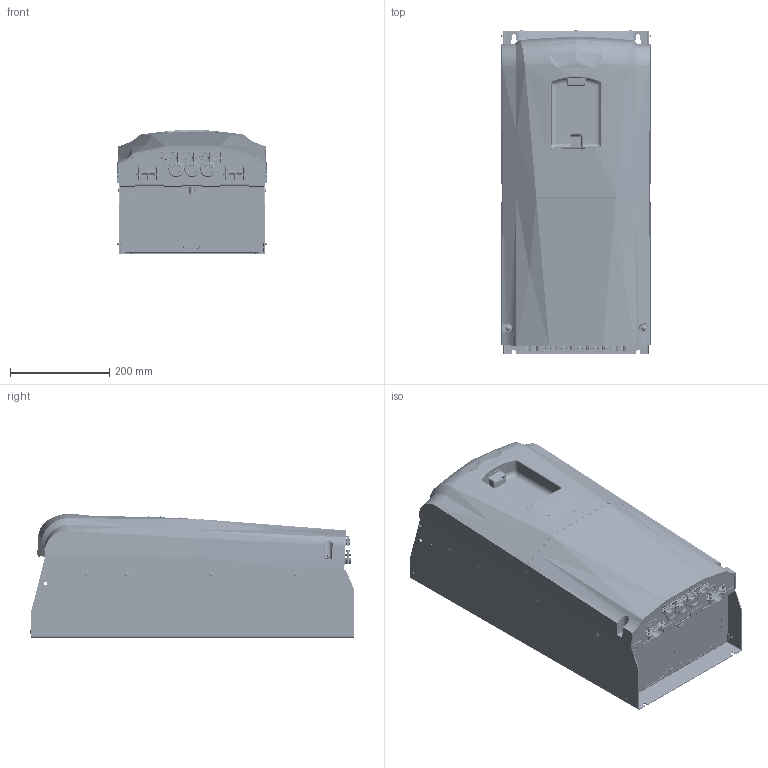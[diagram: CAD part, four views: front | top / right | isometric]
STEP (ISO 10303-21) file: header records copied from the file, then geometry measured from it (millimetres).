
FILE_DESCRIPTION (( 'STEP AP214' ), '1' );
FILE_NAME ('Frame_S3-no HMI.STEP', '2024-05-24T19:30:24', ( '' ), ( '' ), 'SwSTEP 2.0', 'SolidWorks 2023', '' );
FILE_SCHEMA (( 'AUTOMOTIVE_DESIGN' ));
Length unit declared in the file: millimetre
Products named in the file (134): ARJM11D7-AB(10P)^ARJM11D7-104-AB-EW2pcb045pcb045; 97349A300_ROUNDED HEAD THREAD-FORMING SCREWS.step; 2023_01_30_12_14_56_0841; 1733172; SKC-F1.5-PennEngineering-3D-10-12-2022.stp; J2PCB060-Namv3afe-Filters-02; AT_MVSTBR_2_5_5_08; SOCKET_MPD_BK-5058pcb045pcb045; 2023_01_30_11_07_58_0230; SO-M4-8ZI-PennEngineering-3D-01-11-2023; 11H_SHIELD_WLED_WOEMI_WG_8_ASM_ASM^11H_ASSY_SHIELD_ASM_1_ASM_ASM_002__ASM_ASM_ARJM11D7-AB(10P)_ARJM11D7-104-AB-EW2pcb045pcb045; SO-M4-10ZI-PennEngineering-3D-01-11-2023; prop65; 2023_01_30_11_07_58_0386; 32272_02; fan cover_defeature; top shroud_no holes; 2023_01_30_11_07_58_0105; 11H_ASSY_SHIELD_ASM_1_ASM_ASM^002_ASM_ASM_ARJM11D7-AB(10P)__ARJM11D7-104-AB-EW2pcb045pcb045; CSPPNZP-STU-M4-7-2_CSPPNZP-STU-M4-7-2; 94510A245_Brass Screw-to-Expand Inserts_94510A245; 1692K911_Confined-Space Conical Compression Spring_1692K911; 2023_01_30_12_14_56_0826; J20pcb045-nam_maincontrollerwithcopropcb045pcb045; 2023_01_30_12_14_56_0748; J15pcb045-nam_maincontrollerwithcopropcb045pcb045; CSPPNZP-STU-M4-7_CSPPNZP-STU-M4-7; 2023_01_30_11_07_58_0198; 7291N43_Wet-Location Snap-in Sealing Grommet_7291N43; J2pcb045-nam_maincontrollerwithcopropcb045pcb045; front flange; 2023_01_30_11_07_58_0370; 2023_01_30_11_07_58_0120; J19pcb045-nam_maincontrollerwithcopropcb045pcb045; Frame_S3-no HMI; S2pcb045-nam_maincontrollerwithcopropcb045pcb045; 2023_01_30_11_07_58_0292; main plastic cover_main only; mdstbv_2.5-8-g-5.08pcb045pcb045; 2023_01_30_11_07_58_0323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
Assembly tree (228 placements, depth 10):
  Frame_S3-no HMI
    pcb assem_connectors only
      PCB045-REV02_001-00045_lightpcb045pcb045_connectors only
        J1pcb045-nam_maincontrollerwithcopropcb045pcb045
          CONN_BELFUSE_SS-60300-004pcb045pcb045
            SS-60300-004_PART2pcb045pcb045
        J15pcb045-nam_maincontrollerwithcopropcb045pcb045
          CONN_BELFUSE_SS-60300-004pcb045pcb045
            SS-60300-004_PART2pcb045pcb045
        S2pcb045-nam_maincontrollerwithcopropcb045pcb045
          SW_CK_KMR621NGpcb045pcb045
        J21pcb045-nam_maincontrollerwithcopropcb045pcb045
          SOCKET_MPD_BK-5058pcb045pcb045
        J20pcb045-nam_maincontrollerwithcopropcb045pcb045
          CONN_ABRACON_ARJM11D7-502-AB-EW2pcb045pcb045
            ARJM11D7-AB(10P)^ARJM11D7-104-AB-EW2pcb045pcb045
              002_ASM_ASM^ARJM11D7-AB(10P)_ARJM11D7-104-AB-EW2pcb045pcb045
                11H_ASSY_SHIELD_ASM_1_ASM_ASM^002_ASM_ASM_ARJM11D7-AB(10P)__ARJM11D7-104-AB-EW2pcb045pcb045
                  11H_SHIELD_WLED_WOEMI_WG_8_ASM_ASM^11H_ASSY_SHIELD_ASM_1_ASM_ASM_002__ASM_ASM_ARJM11D7-AB(10P)_ARJM11D7-104-AB-EW2pcb045pcb045
        J2pcb045-nam_maincontrollerwithcopropcb045pcb045
          CONN_ABRACON_ARJM11D7-502-AB-EW2pcb045pcb045
            ARJM11D7-AB(10P)^ARJM11D7-104-AB-EW2pcb045pcb045
              002_ASM_ASM^ARJM11D7-AB(10P)_ARJM11D7-104-AB-EW2pcb045pcb045
                11H_ASSY_SHIELD_ASM_1_ASM_ASM^002_ASM_ASM_ARJM11D7-AB(10P)__ARJM11D7-104-AB-EW2pcb045pcb045
                  11H_SHIELD_WLED_WOEMI_WG_8_ASM_ASM^11H_ASSY_SHIELD_ASM_1_ASM_ASM_002__ASM_ASM_ARJM11D7-AB(10P)_ARJM11D7-104-AB-EW2pcb045pcb045
        J19pcb045-nam_maincontrollerwithcopropcb045pcb045
          CONN_PHOENIX_1845549pcb045pcb045
            mdstbv_2.5-8-g-5.08pcb045pcb045
        J6pcb045-nam_maincontrollerwithcopropcb045pcb045
          CONN_PHOENIX_1845549pcb045pcb045
            mdstbv_2.5-8-g-5.08pcb045pcb045
        J4pcb045-nam_maincontrollerwithcopropcb045pcb045
          CONN_AMPHENOL_UE27AE54100pcb045pcb045
      pxc_1792249_04_MVSTBR-2-5-2-ST-5-08_3D  x4
        KK_MVSTB_2_5
        CO_MSTBT_2_5_ST.1_1
        AC_MKDSN_2_5_Laengsschlitz.1_1
        AT_MVSTBR_2_5_5_08_1
      pxc_1792252_04_MVSTBR-2-5-3-ST-5-08_3D  x3
        CO_MSTBT_2_5_ST.1
        AC_MKDSN_2_5_Laengsschlitz.1
        KK_MVSTB_2_5.2
        AT_MVSTBR_2_5_5_08
      pxc_1792294_03_01_MVSTBR-2-5-7-ST-5-08_3D
        2023_01_30_11_07_58_0386
        2023_01_30_11_07_58_0370
        2023_01_30_11_07_58_0355
        2023_01_30_11_07_58_0339
        2023_01_30_11_07_58_0323
        2023_01_30_11_07_58_0308
        2023_01_30_11_07_58_0292
        2023_01_30_11_07_58_0276
        2023_01_30_11_07_58_0261
        2023_01_30_11_07_58_0245
        2023_01_30_11_07_58_0230
        2023_01_30_11_07_58_0214
        2023_01_30_11_07_58_0198
        2023_01_30_11_07_58_0183
        2023_01_30_11_07_58_0167
        2023_01_30_11_07_58_0151
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Bounding box: 301.73 x 651 x 249.52 mm (x, y, z)
Volume: 2928853.4 mm3; surface area: 2811776.3 mm2
Topology: 301 solids, 301 shells, 20629 faces, 54529 edges, 35337 vertices
Faces by surface type: plane 12743, cylinder 4534, bspline 2003, cone 985, torus 250, sphere 114
Entity records: 559839 total; most frequent: CARTESIAN_POINT 232455, ORIENTED_EDGE 71414, DIRECTION 59608, EDGE_CURVE 35707, LINE 24118, VECTOR 24118, VERTEX_POINT 23210, AXIS2_PLACEMENT_3D 17745
